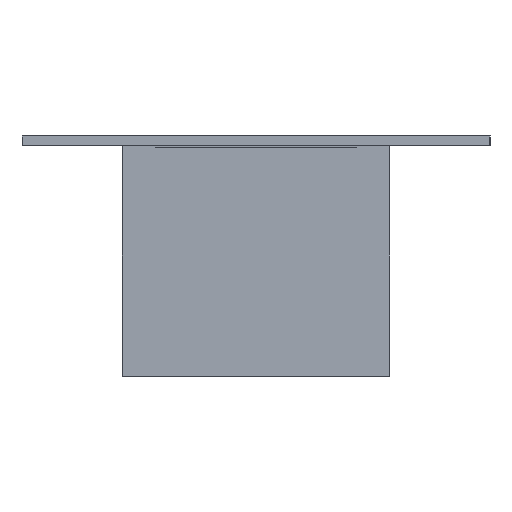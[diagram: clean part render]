
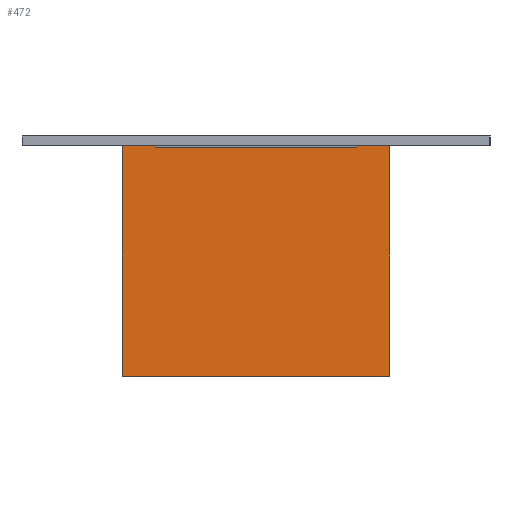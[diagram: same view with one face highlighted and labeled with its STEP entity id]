
A CAD part, left-side view. The second image highlights one B-rep face of the part: STEP entity #472.
In plain terms, the highlighted planar face has unit normal (-1, 0, 0).
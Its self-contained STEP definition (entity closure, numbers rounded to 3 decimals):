
#472=ADVANCED_FACE('',(#968),#7590,.T.);
#968=FACE_OUTER_BOUND('',#1498,.T.);
#1498=EDGE_LOOP('',(#3054,#3055,#3056,#3057,#3058,#3059,#3060,#3061));
#3054=ORIENTED_EDGE('',*,*,#4742,.F.);
#3055=ORIENTED_EDGE('',*,*,#4754,.T.);
#3056=ORIENTED_EDGE('',*,*,#4755,.T.);
#3057=ORIENTED_EDGE('',*,*,#4756,.T.);
#3058=ORIENTED_EDGE('',*,*,#4757,.T.);
#3059=ORIENTED_EDGE('',*,*,#4758,.T.);
#3060=ORIENTED_EDGE('',*,*,#4752,.F.);
#3061=ORIENTED_EDGE('',*,*,#4759,.T.);
#4742=EDGE_CURVE('',#6852,#6853,#6209,.T.);
#4752=EDGE_CURVE('',#6860,#6861,#6215,.T.);
#4754=EDGE_CURVE('',#6852,#6862,#6216,.T.);
#4755=EDGE_CURVE('',#6862,#6863,#6217,.T.);
#4756=EDGE_CURVE('',#6863,#6864,#6218,.T.);
#4757=EDGE_CURVE('',#6864,#6865,#6219,.T.);
#4758=EDGE_CURVE('',#6865,#6861,#6220,.T.);
#4759=EDGE_CURVE('',#6860,#6853,#6221,.T.);
#6209=B_SPLINE_CURVE_WITH_KNOTS('',1,(#13989,#13990),.UNSPECIFIED.,.F.,
 .F.,(2,2),(0.,690.),.UNSPECIFIED.);
#6215=B_SPLINE_CURVE_WITH_KNOTS('',1,(#14013,#14014),.UNSPECIFIED.,.F.,
 .F.,(2,2),(0.,690.),.UNSPECIFIED.);
#6216=B_SPLINE_CURVE_WITH_KNOTS('',1,(#14018,#14019),.UNSPECIFIED.,.F.,
 .F.,(2,2),(0.,98.),.UNSPECIFIED.);
#6217=B_SPLINE_CURVE_WITH_KNOTS('',1,(#14020,#14021),.UNSPECIFIED.,.F.,
 .F.,(2,2),(0.,4.341),.UNSPECIFIED.);
#6218=B_SPLINE_CURVE_WITH_KNOTS('',1,(#14022,#14023),.UNSPECIFIED.,.F.,
 .F.,(2,2),(0.,600.),.UNSPECIFIED.);
#6219=B_SPLINE_CURVE_WITH_KNOTS('',1,(#14024,#14025),.UNSPECIFIED.,.F.,
 .F.,(2,2),(0.,4.341),.UNSPECIFIED.);
#6220=B_SPLINE_CURVE_WITH_KNOTS('',1,(#14026,#14027),.UNSPECIFIED.,.F.,
 .F.,(2,2),(0.,98.),.UNSPECIFIED.);
#6221=B_SPLINE_CURVE_WITH_KNOTS('',1,(#14028,#14029),.UNSPECIFIED.,.F.,
 .F.,(2,2),(0.,796.),.UNSPECIFIED.);
#6852=VERTEX_POINT('',#13952);
#6853=VERTEX_POINT('',#13953);
#6860=VERTEX_POINT('',#13960);
#6861=VERTEX_POINT('',#13961);
#6862=VERTEX_POINT('',#13962);
#6863=VERTEX_POINT('',#13963);
#6864=VERTEX_POINT('',#13964);
#6865=VERTEX_POINT('',#13965);
#7590=PLANE('',#7808);
#7808=AXIS2_PLACEMENT_3D('',#13938,#8009,$);
#8009=DIRECTION('',(-1.,0.,0.));
#13938=CARTESIAN_POINT('',(-1100.,477.72,-69.12));
#13952=CARTESIAN_POINT('',(-1100.,-398.,690.));
#13953=CARTESIAN_POINT('',(-1100.,-398.,0.));
#13960=CARTESIAN_POINT('',(-1100.,398.,0.));
#13961=CARTESIAN_POINT('',(-1100.,398.,690.));
#13962=CARTESIAN_POINT('',(-1100.,-300.,690.));
#13963=CARTESIAN_POINT('',(-1100.,-300.,685.659));
#13964=CARTESIAN_POINT('',(-1100.,300.,685.659));
#13965=CARTESIAN_POINT('',(-1100.,300.,690.));
#13989=CARTESIAN_POINT('',(-1100.,-398.,690.));
#13990=CARTESIAN_POINT('',(-1100.,-398.,0.));
#14013=CARTESIAN_POINT('',(-1100.,398.,0.));
#14014=CARTESIAN_POINT('',(-1100.,398.,690.));
#14018=CARTESIAN_POINT('',(-1100.,-398.,690.));
#14019=CARTESIAN_POINT('',(-1100.,-300.,690.));
#14020=CARTESIAN_POINT('',(-1100.,-300.,690.));
#14021=CARTESIAN_POINT('',(-1100.,-300.,685.659));
#14022=CARTESIAN_POINT('',(-1100.,-300.,685.659));
#14023=CARTESIAN_POINT('',(-1100.,300.,685.659));
#14024=CARTESIAN_POINT('',(-1100.,300.,685.659));
#14025=CARTESIAN_POINT('',(-1100.,300.,690.));
#14026=CARTESIAN_POINT('',(-1100.,300.,690.));
#14027=CARTESIAN_POINT('',(-1100.,398.,690.));
#14028=CARTESIAN_POINT('',(-1100.,398.,0.));
#14029=CARTESIAN_POINT('',(-1100.,-398.,0.));
